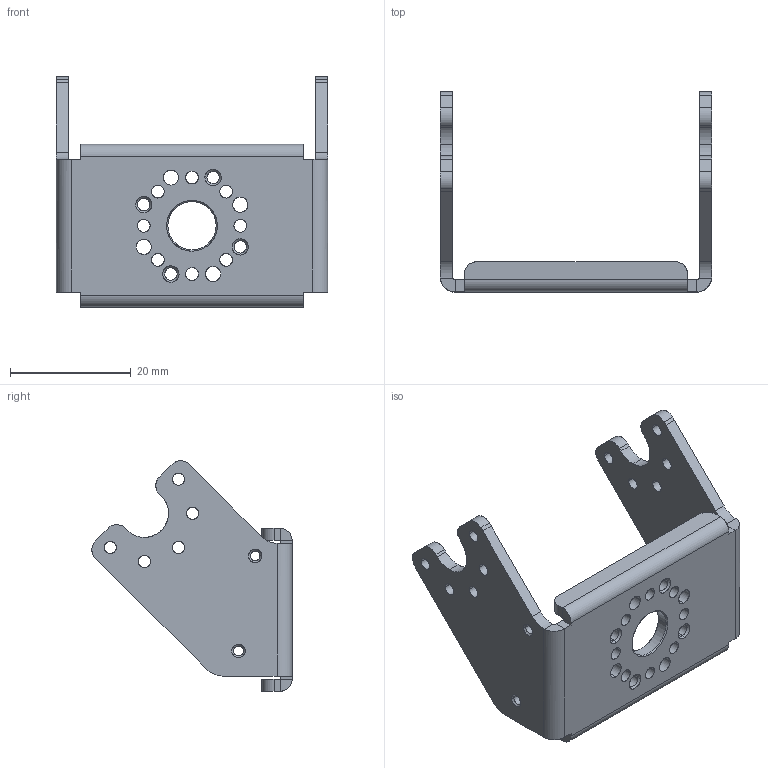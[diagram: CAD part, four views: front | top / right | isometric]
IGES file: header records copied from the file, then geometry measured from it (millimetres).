
Global section: file name: C:\Users\Knabe\Documents\Classes\8 Semester 8\DARwIn\Deliverables\DARwIn OP\DARwIn OP Part Files\OP 3D CAD Files\3D IGS\10_FR07_H102.igs; native system: NX V7.0; preprocessor: SIEMENS PLM Software NX 7.0; date: 20110525.180308; units: millimetre
Bounding box: 45 x 33.21 x 38.21 mm (x, y, z)
Surface area: 5952.6 mm2 (no closed solid volume)
Topology: 0 solids, 0 shells, 156 faces, 1248 edges, 1248 vertices
Faces by surface type: bspline 156
